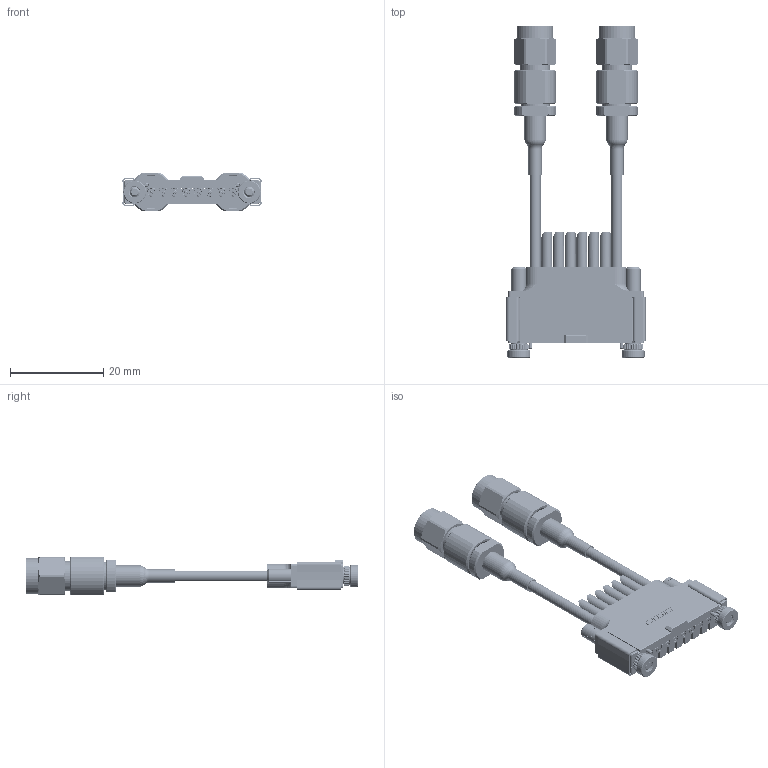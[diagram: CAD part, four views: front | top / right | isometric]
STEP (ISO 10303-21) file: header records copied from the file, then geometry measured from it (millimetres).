
FILE_DESCRIPTION (( 'STEP AP203' ), '1' );
FILE_NAME ('TM40-0157-00.STEP', '2019-12-24T02:45:50', ( '' ), ( '' ), 'SwSTEP 2.0', 'SolidWorks 2019', '' );
FILE_SCHEMA (( 'CONFIG_CONTROL_DESIGN' ));
Length unit declared in the file: inch
Products named in the file (60): TIP092; 3H24921610_CLOSED POSITION; C6696-2_RG316; C6694-1_for flex gnd; Copy of Imported11^SMA(M); TM7S-H2S-XXX-XXX_CUT; Copy of Imported10^SMA(M); C6693_CLOSED POSITION; TM7S-H2S-XXX-XXX_SMA(M); SMA(M)_默认è_; SPRING-EXT; TM40-0157-00; 1V6H2492_UFC092D_CABLE_2.92mm; M23053-4-101-0_3K69771311P; C6697-2; Copy of Imported1^SMA(M); C6695-1_FOR RG316; Copy of Imported7^SMA(M); Copy of Imported4^SMA(M); Copy of Imported3^SMA(M); C3021-103_Compress.025; C6635-2_C6635-2; C6715-XX_C6715-4; SPRING092; C3569-14_C3569-14; Copy of Imported6^SMA(M); C6698-2_"B"; SHELL092; Copy of Imported2^SMA(M); C6716-XX_C6716-4; C6625-2-092_B; Copy of Imported9^SMA(M); TM17-0007-00; Copy of Imported5^SMA(M); Copy of Imported8^SMA(M); C6339-6_C6339-6; C6628-1_for flex gnd; TM7S-SH2XS_8POS
Assembly tree (165 placements, depth 5):
  TM40-0157-00
    TM7S-SH2XS_8POS
      C6716-XX_C6716-4
      C6715-XX_C6715-4
      TM17-0007-00  x2
      C3569-14_C3569-14  x2
      C6339-6_C6339-6  x2
      C6635-2_C6635-2  x2
    TM7S-H2S-XXX-XXX_SMA(M)
      3H24921610_CLOSED POSITION
        C6693_CLOSED POSITION
          TIP092
          SHELL092
          C6625-2-092_B
          SPRING092
          SPRING-EXT
        C6694-1_for flex gnd
        C6628-1_for flex gnd
        C6695-1_FOR RG316
        C6696-2_RG316
        C6697-2
        C6698-2_"B"
        C3021-103_Compress.025
      1V6H2492_UFC092D_CABLE_2.92mm
      M23053-4-101-0_3K69771311P
      SMA(M)_默认è_
        Copy of Imported11^SMA(M)
        Copy of Imported10^SMA(M)
        Copy of Imported9^SMA(M)
        Copy of Imported8^SMA(M)
        Copy of Imported7^SMA(M)
        Copy of Imported6^SMA(M)
        Copy of Imported5^SMA(M)
        Copy of Imported4^SMA(M)
        Copy of Imported3^SMA(M)
        Copy of Imported2^SMA(M)
        Copy of Imported1^SMA(M)
    TM7S-H2S-XXX-XXX_CUT
      3H24921610_CLOSED POSITION
        C6693_CLOSED POSITION
          TIP092
          SHELL092
          C6625-2-092_B
          SPRING092
          SPRING-EXT
        C6694-1_for flex gnd
        C6628-1_for flex gnd
        C6695-1_FOR RG316
        C6696-2_RG316
        C6697-2
        C6698-2_"B"
        C3021-103_Compress.025
      1V6H2492_UFC092D_CABLE_2.92mm
    TM7S-H2S-XXX-XXX_CUT
      3H24921610_CLOSED POSITION
        C6693_CLOSED POSITION
          TIP092
          SHELL092
          C6625-2-092_B
          SPRING092
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Bounding box: 29.8 x 71.08 x 8 mm (x, y, z)
Volume: 4562.8 mm3; surface area: 18078.7 mm2
Topology: 178 solids, 178 shells, 5031 faces, 12473 edges, 7946 vertices
Faces by surface type: cylinder 2042, plane 1917, cone 692, torus 236, bspline 138, sphere 6
Entity records: 84165 total; most frequent: CARTESIAN_POINT 28877, ORIENTED_EDGE 9700, DIRECTION 9681, EDGE_CURVE 4850, AXIS2_PLACEMENT_3D 3599, VERTEX_POINT 3135, LINE 2483, VECTOR 2483
